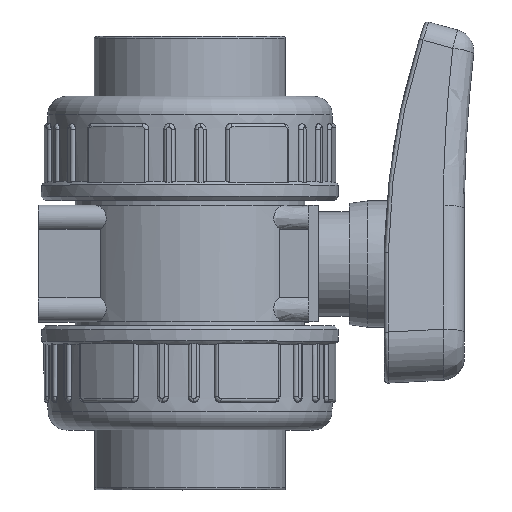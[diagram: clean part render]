
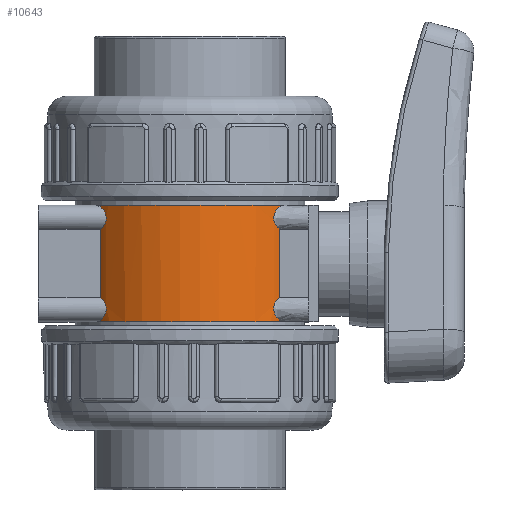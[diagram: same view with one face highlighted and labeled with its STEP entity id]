
A CAD part, top view. The second image highlights one B-rep face of the part: STEP entity #10643.
In plain terms, the highlighted cylindrical face has radius 31.85 mm (diameter 63.7 mm), a partial arc.
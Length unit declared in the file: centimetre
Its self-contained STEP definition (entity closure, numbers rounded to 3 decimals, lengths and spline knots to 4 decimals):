
#370=LINE('',#42807,#944);
#426=LINE('',#43505,#1000);
#944=VECTOR('',#13206,1.8492);
#1000=VECTOR('',#13548,1.8492);
#1579=B_SPLINE_CURVE_WITH_KNOTS('',3,(#42787,#42788,#42789,#42790,#42791,
#42792,#42793,#42794,#42795,#42796,#42797,#42798,#42799,#42800,#42801,#42802),
 .UNSPECIFIED.,.F.,.F.,(4,2,2,2,2,2,2,4),(0.,0.216,0.3891,
0.5215,0.6338,0.7432,0.8674,
1.0472),.UNSPECIFIED.);
#1580=B_SPLINE_CURVE_WITH_KNOTS('',3,(#42844,#42845,#42846,#42847,#42848,
#42849,#42850,#42851,#42852,#42853,#42854,#42855,#42856,#42857,#42858,#42859,
#42860,#42861),.UNSPECIFIED.,.F.,.F.,(4,2,2,2,2,2,2,2,4),(0.,0.1819,
0.3181,0.4314,0.5401,0.6602,
0.8152,0.9729,1.1275),.UNSPECIFIED.);
#1590=B_SPLINE_CURVE_WITH_KNOTS('',3,(#43201,#43202,#43203,#43204,#43205,
#43206,#43207,#43208,#43209,#43210,#43211,#43212,#43213,#43214,#43215,#43216,
#43217),.UNSPECIFIED.,.F.,.F.,(4,2,2,3,2,2,2,4),(-0.3797,-0.2646,
-0.1323,0.,0.1323,0.2646,0.4387,
0.5566),.UNSPECIFIED.);
#1602=B_SPLINE_CURVE_WITH_KNOTS('',3,(#43486,#43487,#43488,#43489,#43490,
#43491,#43492,#43493,#43494,#43495,#43496,#43497,#43498,#43499,#43500,#43501,
#43502),.UNSPECIFIED.,.F.,.F.,(4,2,2,2,3,2,2,4),(-0.6129,-0.4387,
-0.2646,-0.1323,0.,0.1323,0.2646,
0.3797),.UNSPECIFIED.);
#1895=CYLINDRICAL_SURFACE('',#11536,3.185);
#2476=FACE_OUTER_BOUND('',#3153,.T.);
#3153=EDGE_LOOP('',(#8284,#8285,#8286,#8287,#8288,#8289,#8290,#8291));
#3736=CIRCLE('',#11534,3.185);
#3738=CIRCLE('',#11537,3.185);
#4440=VERTEX_POINT('',#42784);
#4441=VERTEX_POINT('',#42786);
#4442=VERTEX_POINT('',#42805);
#4443=VERTEX_POINT('',#42842);
#4503=VERTEX_POINT('',#43198);
#4504=VERTEX_POINT('',#43200);
#4539=VERTEX_POINT('',#43483);
#4540=VERTEX_POINT('',#43485);
#5685=EDGE_CURVE('',#4441,#4440,#1579,.T.);
#5688=EDGE_CURVE('',#4440,#4442,#370,.T.);
#5690=EDGE_CURVE('',#4442,#4443,#1580,.T.);
#5765=EDGE_CURVE('',#4504,#4503,#1590,.T.);
#5839=EDGE_CURVE('',#4540,#4539,#1602,.T.);
#5841=EDGE_CURVE('',#4539,#4504,#426,.T.);
#5849=EDGE_CURVE('',#4443,#4540,#3736,.T.);
#5851=EDGE_CURVE('',#4441,#4503,#3738,.T.);
#8284=ORIENTED_EDGE('',*,*,#5690,.T.);
#8285=ORIENTED_EDGE('',*,*,#5849,.T.);
#8286=ORIENTED_EDGE('',*,*,#5839,.T.);
#8287=ORIENTED_EDGE('',*,*,#5841,.T.);
#8288=ORIENTED_EDGE('',*,*,#5765,.T.);
#8289=ORIENTED_EDGE('',*,*,#5851,.F.);
#8290=ORIENTED_EDGE('',*,*,#5685,.T.);
#8291=ORIENTED_EDGE('',*,*,#5688,.T.);
#10643=ADVANCED_FACE('',(#2476),#1895,.T.);
#11534=AXIS2_PLACEMENT_3D('',#43521,#13570,#13571);
#11536=AXIS2_PLACEMENT_3D('',#43524,#13574,#13575);
#11537=AXIS2_PLACEMENT_3D('',#43525,#13576,#13577);
#13206=DIRECTION('',(0.,1.,0.));
#13548=DIRECTION('',(0.,-1.,0.));
#13570=DIRECTION('center_axis',(0.,-1.,0.));
#13571=DIRECTION('ref_axis',(1.,0.,0.));
#13574=DIRECTION('center_axis',(0.,-1.,0.));
#13575=DIRECTION('ref_axis',(-1.,0.,0.));
#13576=DIRECTION('center_axis',(0.,-1.,0.));
#13577=DIRECTION('ref_axis',(1.,0.,0.));
#42784=CARTESIAN_POINT('',(2.4074,-0.9361,2.0853));
#42786=CARTESIAN_POINT('',(2.5216,-1.58,1.9457));
#42787=CARTESIAN_POINT('Ctrl Pts',(2.5216,-1.58,1.9457));
#42788=CARTESIAN_POINT('Ctrl Pts',(2.4778,-1.5725,2.0024));
#42789=CARTESIAN_POINT('Ctrl Pts',(2.4325,-1.5512,2.057));
#42790=CARTESIAN_POINT('Ctrl Pts',(2.3574,-1.4899,2.1422));
#42791=CARTESIAN_POINT('Ctrl Pts',(2.3276,-1.4554,2.1743));
#42792=CARTESIAN_POINT('Ctrl Pts',(2.2866,-1.3851,2.2173));
#42793=CARTESIAN_POINT('Ctrl Pts',(2.2722,-1.3505,2.232));
#42794=CARTESIAN_POINT('Ctrl Pts',(2.256,-1.2806,2.2483));
#42795=CARTESIAN_POINT('Ctrl Pts',(2.2529,-1.2473,2.2513));
#42796=CARTESIAN_POINT('Ctrl Pts',(2.2566,-1.1809,2.2477));
#42797=CARTESIAN_POINT('Ctrl Pts',(2.263,-1.1493,2.2413));
#42798=CARTESIAN_POINT('Ctrl Pts',(2.2843,-1.086,2.2196));
#42799=CARTESIAN_POINT('Ctrl Pts',(2.2999,-1.0556,2.2035));
#42800=CARTESIAN_POINT('Ctrl Pts',(2.344,-0.9903,
2.1567));
#42801=CARTESIAN_POINT('Ctrl Pts',(2.3752,-0.9593,2.1225));
#42802=CARTESIAN_POINT('Ctrl Pts',(2.4074,-0.9361,
2.0853));
#42805=CARTESIAN_POINT('',(2.4074,0.9131,2.0853));
#42807=CARTESIAN_POINT('',(2.4074,-0.01,2.0853));
#42842=CARTESIAN_POINT('',(2.5562,1.56,1.9));
#42844=CARTESIAN_POINT('Ctrl Pts',(2.4074,0.9131,2.0853));
#42845=CARTESIAN_POINT('Ctrl Pts',(2.3715,0.939,2.1268));
#42846=CARTESIAN_POINT('Ctrl Pts',(2.3389,0.9731,2.1622));
#42847=CARTESIAN_POINT('Ctrl Pts',(2.2937,1.0434,2.2099));
#42848=CARTESIAN_POINT('Ctrl Pts',(2.2775,1.0779,2.2266));
#42849=CARTESIAN_POINT('Ctrl Pts',(2.2582,1.1481,2.2461));
#42850=CARTESIAN_POINT('Ctrl Pts',(2.2538,1.1815,2.2505));
#42851=CARTESIAN_POINT('Ctrl Pts',(2.2548,1.2485,2.2494));
#42852=CARTESIAN_POINT('Ctrl Pts',(2.26,1.2804,2.2443));
#42853=CARTESIAN_POINT('Ctrl Pts',(2.2788,1.3441,2.2252));
#42854=CARTESIAN_POINT('Ctrl Pts',(2.2931,1.3745,2.2106));
#42855=CARTESIAN_POINT('Ctrl Pts',(2.3314,1.4363,2.1702));
#42856=CARTESIAN_POINT('Ctrl Pts',(2.3572,1.4655,2.1423));
#42857=CARTESIAN_POINT('Ctrl Pts',(2.4119,1.5123,2.0806));
#42858=CARTESIAN_POINT('Ctrl Pts',(2.4412,1.5303,2.0462));
#42859=CARTESIAN_POINT('Ctrl Pts',(2.4992,1.5539,1.9749));
#42860=CARTESIAN_POINT('Ctrl Pts',(2.5282,1.56,1.9377));
#42861=CARTESIAN_POINT('Ctrl Pts',(2.5562,1.56,1.9));
#43198=CARTESIAN_POINT('',(-2.5216,-1.58,1.9457));
#43200=CARTESIAN_POINT('',(-2.4074,-0.9361,2.0853));
#43201=CARTESIAN_POINT('Ctrl Pts',(-2.4074,-0.9361,
2.0853));
#43202=CARTESIAN_POINT('Ctrl Pts',(-2.3833,-0.9535,
2.1131));
#43203=CARTESIAN_POINT('Ctrl Pts',(-2.3604,-0.9748,
2.1386));
#43204=CARTESIAN_POINT('Ctrl Pts',(-2.3171,-1.0271,
2.1855));
#43205=CARTESIAN_POINT('Ctrl Pts',(-2.2947,-1.0627,2.2089));
#43206=CARTESIAN_POINT('Ctrl Pts',(-2.2632,-1.1436,
2.2412));
#43207=CARTESIAN_POINT('Ctrl Pts',(-2.2543,-1.1889,
2.25));
#43208=CARTESIAN_POINT('Ctrl Pts',(-2.2543,-1.233,2.25));
#43209=CARTESIAN_POINT('Ctrl Pts',(-2.2543,-1.2771,
2.25));
#43210=CARTESIAN_POINT('Ctrl Pts',(-2.2632,-1.3224,
2.2412));
#43211=CARTESIAN_POINT('Ctrl Pts',(-2.2947,-1.4033,2.2089));
#43212=CARTESIAN_POINT('Ctrl Pts',(-2.3171,-1.4389,
2.1855));
#43213=CARTESIAN_POINT('Ctrl Pts',(-2.3707,-1.5036,
2.1274));
#43214=CARTESIAN_POINT('Ctrl Pts',(-2.4075,-1.5335,
2.0861));
#43215=CARTESIAN_POINT('Ctrl Pts',(-2.4708,-1.5669,
2.0103));
#43216=CARTESIAN_POINT('Ctrl Pts',(-2.4967,-1.5758,
1.9779));
#43217=CARTESIAN_POINT('Ctrl Pts',(-2.5216,-1.58,1.9457));
#43483=CARTESIAN_POINT('',(-2.4074,0.9131,2.0853));
#43485=CARTESIAN_POINT('',(-2.5562,1.56,1.9));
#43486=CARTESIAN_POINT('Ctrl Pts',(-2.5562,1.56,1.9));
#43487=CARTESIAN_POINT('Ctrl Pts',(-2.5216,1.56,1.9466));
#43488=CARTESIAN_POINT('Ctrl Pts',(-2.4829,1.5503,1.9957));
#43489=CARTESIAN_POINT('Ctrl Pts',(-2.4075,1.5105,2.0861));
#43490=CARTESIAN_POINT('Ctrl Pts',(-2.3707,1.4806,2.1274));
#43491=CARTESIAN_POINT('Ctrl Pts',(-2.3171,1.4159,2.1855));
#43492=CARTESIAN_POINT('Ctrl Pts',(-2.2947,1.3803,2.2089));
#43493=CARTESIAN_POINT('Ctrl Pts',(-2.2632,1.2994,2.2412));
#43494=CARTESIAN_POINT('Ctrl Pts',(-2.2543,1.2541,2.25));
#43495=CARTESIAN_POINT('Ctrl Pts',(-2.2543,1.21,2.25));
#43496=CARTESIAN_POINT('Ctrl Pts',(-2.2543,1.1659,2.25));
#43497=CARTESIAN_POINT('Ctrl Pts',(-2.2632,1.1206,2.2412));
#43498=CARTESIAN_POINT('Ctrl Pts',(-2.2947,1.0397,2.2089));
#43499=CARTESIAN_POINT('Ctrl Pts',(-2.3171,1.0041,2.1855));
#43500=CARTESIAN_POINT('Ctrl Pts',(-2.3604,0.9518,
2.1386));
#43501=CARTESIAN_POINT('Ctrl Pts',(-2.3833,0.9305,
2.1131));
#43502=CARTESIAN_POINT('Ctrl Pts',(-2.4074,0.9131,
2.0853));
#43505=CARTESIAN_POINT('',(-2.4074,-0.01,2.0853));
#43521=CARTESIAN_POINT('Origin',(0.,1.56,0.));
#43524=CARTESIAN_POINT('Origin',(0.,-0.01,
0.));
#43525=CARTESIAN_POINT('Origin',(0.,-1.58,0.));
